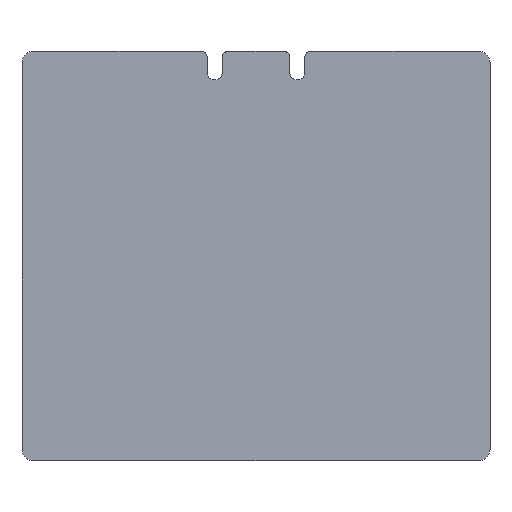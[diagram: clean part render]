
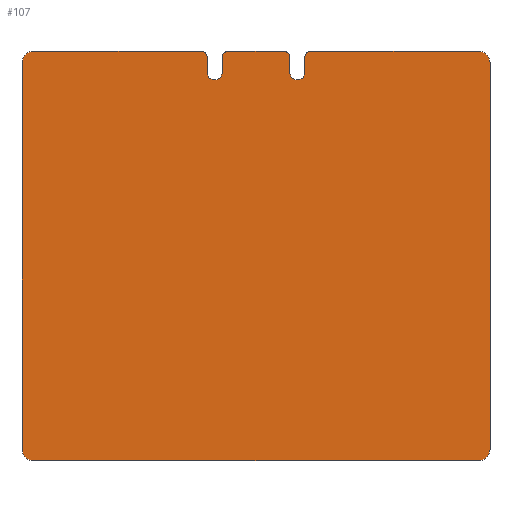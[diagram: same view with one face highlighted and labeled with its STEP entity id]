
A CAD part, top view. The second image highlights one B-rep face of the part: STEP entity #107.
In plain terms, the highlighted planar face has unit normal (0, 0, 1).
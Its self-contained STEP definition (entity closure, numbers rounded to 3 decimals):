
#107 = ADVANCED_FACE( '', ( #201 ), #202, .F. );
#201 = FACE_OUTER_BOUND( '', #281, .T. );
#202 = PLANE( '', #282 );
#281 = EDGE_LOOP( '', ( #460, #461, #462, #463, #464, #465, #466, #467, #468, #469, #470, #471, #472, #473, #474, #475, #476, #477, #478, #479 ) );
#282 = AXIS2_PLACEMENT_3D( '', #480, #481, #482 );
#460 = ORIENTED_EDGE( '', *, *, #548, .T. );
#461 = ORIENTED_EDGE( '', *, *, #561, .T. );
#462 = ORIENTED_EDGE( '', *, *, #572, .T. );
#463 = ORIENTED_EDGE( '', *, *, #554, .F. );
#464 = ORIENTED_EDGE( '', *, *, #531, .T. );
#465 = ORIENTED_EDGE( '', *, *, #511, .T. );
#466 = ORIENTED_EDGE( '', *, *, #551, .T. );
#467 = ORIENTED_EDGE( '', *, *, #541, .T. );
#468 = ORIENTED_EDGE( '', *, *, #569, .F. );
#469 = ORIENTED_EDGE( '', *, *, #506, .T. );
#470 = ORIENTED_EDGE( '', *, *, #528, .F. );
#471 = ORIENTED_EDGE( '', *, *, #565, .T. );
#472 = ORIENTED_EDGE( '', *, *, #578, .F. );
#473 = ORIENTED_EDGE( '', *, *, #521, .T. );
#474 = ORIENTED_EDGE( '', *, *, #535, .T. );
#475 = ORIENTED_EDGE( '', *, *, #501, .T. );
#476 = ORIENTED_EDGE( '', *, *, #558, .T. );
#477 = ORIENTED_EDGE( '', *, *, #537, .F. );
#478 = ORIENTED_EDGE( '', *, *, #518, .T. );
#479 = ORIENTED_EDGE( '', *, *, #579, .T. );
#480 = CARTESIAN_POINT( '', ( 0., 0., 3. ) );
#481 = DIRECTION( '', ( 0., 0., -1. ) );
#482 = DIRECTION( '', ( -1., 0., 0. ) );
#501 = EDGE_CURVE( '', #583, #584, #585, .F. );
#506 = EDGE_CURVE( '', #592, #593, #594, .F. );
#511 = EDGE_CURVE( '', #601, #602, #603, .F. );
#518 = EDGE_CURVE( '', #615, #613, #616, .T. );
#521 = EDGE_CURVE( '', #619, #620, #621, .F. );
#528 = EDGE_CURVE( '', #630, #593, #632, .T. );
#531 = EDGE_CURVE( '', #636, #601, #637, .T. );
#535 = EDGE_CURVE( '', #620, #583, #641, .T. );
#537 = EDGE_CURVE( '', #615, #643, #644, .T. );
#541 = EDGE_CURVE( '', #649, #650, #651, .F. );
#548 = EDGE_CURVE( '', #663, #661, #664, .T. );
#551 = EDGE_CURVE( '', #602, #649, #667, .T. );
#554 = EDGE_CURVE( '', #636, #670, #671, .T. );
#558 = EDGE_CURVE( '', #584, #643, #676, .T. );
#561 = EDGE_CURVE( '', #661, #679, #680, .F. );
#565 = EDGE_CURVE( '', #630, #685, #686, .F. );
#569 = EDGE_CURVE( '', #592, #650, #691, .T. );
#572 = EDGE_CURVE( '', #679, #670, #694, .T. );
#578 = EDGE_CURVE( '', #619, #685, #700, .T. );
#579 = EDGE_CURVE( '', #613, #663, #701, .F. );
#583 = VERTEX_POINT( '', #705 );
#584 = VERTEX_POINT( '', #706 );
#585 = CIRCLE( '', #707, 2.5 );
#592 = VERTEX_POINT( '', #716 );
#593 = VERTEX_POINT( '', #717 );
#594 = CIRCLE( '', #718, 5. );
#601 = VERTEX_POINT( '', #727 );
#602 = VERTEX_POINT( '', #728 );
#603 = CIRCLE( '', #729, 2.5 );
#613 = VERTEX_POINT( '', #742 );
#615 = VERTEX_POINT( '', #745 );
#616 = LINE( '', #746, #747 );
#619 = VERTEX_POINT( '', #751 );
#620 = VERTEX_POINT( '', #752 );
#621 = CIRCLE( '', #753, 5. );
#630 = VERTEX_POINT( '', #765 );
#632 = LINE( '', #768, #769 );
#636 = VERTEX_POINT( '', #774 );
#637 = LINE( '', #775, #776 );
#641 = LINE( '', #782, #783 );
#643 = VERTEX_POINT( '', #785 );
#644 = CIRCLE( '', #786, 3.2 );
#649 = VERTEX_POINT( '', #792 );
#650 = VERTEX_POINT( '', #793 );
#651 = CIRCLE( '', #794, 5. );
#661 = VERTEX_POINT( '', #807 );
#663 = VERTEX_POINT( '', #810 );
#664 = LINE( '', #811, #812 );
#667 = LINE( '', #816, #817 );
#670 = VERTEX_POINT( '', #821 );
#671 = CIRCLE( '', #822, 3.2 );
#676 = LINE( '', #828, #829 );
#679 = VERTEX_POINT( '', #833 );
#680 = CIRCLE( '', #834, 2.5 );
#685 = VERTEX_POINT( '', #840 );
#686 = CIRCLE( '', #841, 5. );
#691 = LINE( '', #847, #848 );
#694 = LINE( '', #852, #853 );
#700 = LINE( '', #861, #862 );
#701 = CIRCLE( '', #863, 2.5 );
#705 = CARTESIAN_POINT( '', ( 23.378, 100., 3. ) );
#706 = CARTESIAN_POINT( '', ( 20.878, 97.5, 3. ) );
#707 = AXIS2_PLACEMENT_3D( '', #866, #867, #868 );
#716 = CARTESIAN_POINT( '', ( -100., -70., 3. ) );
#717 = CARTESIAN_POINT( '', ( -95., -75., 3. ) );
#718 = AXIS2_PLACEMENT_3D( '', #874, #875, #876 );
#727 = CARTESIAN_POINT( '', ( -20.878, 97.5, 3. ) );
#728 = CARTESIAN_POINT( '', ( -23.378, 100., 3. ) );
#729 = AXIS2_PLACEMENT_3D( '', #882, #883, #884 );
#742 = CARTESIAN_POINT( '', ( 14.478, 97.5, 3. ) );
#745 = CARTESIAN_POINT( '', ( 14.478, 91., 3. ) );
#746 = CARTESIAN_POINT( '', ( 14.478, 0., 3. ) );
#747 = VECTOR( '', #892, 1000. );
#751 = CARTESIAN_POINT( '', ( 100., 95., 3. ) );
#752 = CARTESIAN_POINT( '', ( 95., 100., 3. ) );
#753 = AXIS2_PLACEMENT_3D( '', #894, #895, #896 );
#765 = CARTESIAN_POINT( '', ( 95., -75., 3. ) );
#768 = CARTESIAN_POINT( '', ( 100., -75., 3. ) );
#769 = VECTOR( '', #904, 1000. );
#774 = CARTESIAN_POINT( '', ( -20.878, 91., 3. ) );
#775 = CARTESIAN_POINT( '', ( -20.878, 0., 3. ) );
#776 = VECTOR( '', #906, 1000. );
#782 = CARTESIAN_POINT( '', ( 100., 100., 3. ) );
#783 = VECTOR( '', #909, 1000. );
#785 = CARTESIAN_POINT( '', ( 20.878, 91., 3. ) );
#786 = AXIS2_PLACEMENT_3D( '', #910, #911, #912 );
#792 = CARTESIAN_POINT( '', ( -95., 100., 3. ) );
#793 = CARTESIAN_POINT( '', ( -100., 95., 3. ) );
#794 = AXIS2_PLACEMENT_3D( '', #917, #918, #919 );
#807 = CARTESIAN_POINT( '', ( -11.978, 100., 3. ) );
#810 = CARTESIAN_POINT( '', ( 11.978, 100., 3. ) );
#811 = CARTESIAN_POINT( '', ( 100., 100., 3. ) );
#812 = VECTOR( '', #927, 1000. );
#816 = CARTESIAN_POINT( '', ( 100., 100., 3. ) );
#817 = VECTOR( '', #929, 1000. );
#821 = CARTESIAN_POINT( '', ( -14.478, 91., 3. ) );
#822 = AXIS2_PLACEMENT_3D( '', #931, #932, #933 );
#828 = CARTESIAN_POINT( '', ( 20.878, 0., 3. ) );
#829 = VECTOR( '', #938, 1000. );
#833 = CARTESIAN_POINT( '', ( -14.478, 97.5, 3. ) );
#834 = AXIS2_PLACEMENT_3D( '', #940, #941, #942 );
#840 = CARTESIAN_POINT( '', ( 100., -70., 3. ) );
#841 = AXIS2_PLACEMENT_3D( '', #947, #948, #949 );
#847 = CARTESIAN_POINT( '', ( -100., -75., 3. ) );
#848 = VECTOR( '', #954, 1000. );
#852 = CARTESIAN_POINT( '', ( -14.478, 0., 3. ) );
#853 = VECTOR( '', #956, 1000. );
#861 = CARTESIAN_POINT( '', ( 100., 75., 3. ) );
#862 = VECTOR( '', #962, 1000. );
#863 = AXIS2_PLACEMENT_3D( '', #963, #964, #965 );
#866 = CARTESIAN_POINT( '', ( 23.378, 97.5, 3. ) );
#867 = DIRECTION( '', ( 0., 0., -1. ) );
#868 = DIRECTION( '', ( -1., 0., 0. ) );
#874 = CARTESIAN_POINT( '', ( -95., -70., 3. ) );
#875 = DIRECTION( '', ( 0., 0., -1. ) );
#876 = DIRECTION( '', ( -1., 0., 0. ) );
#882 = CARTESIAN_POINT( '', ( -23.378, 97.5, 3. ) );
#883 = DIRECTION( '', ( 0., 0., -1. ) );
#884 = DIRECTION( '', ( -1., 0., 0. ) );
#892 = DIRECTION( '', ( 0., 1., 0. ) );
#894 = CARTESIAN_POINT( '', ( 95., 95., 3. ) );
#895 = DIRECTION( '', ( 0., 0., -1. ) );
#896 = DIRECTION( '', ( -1., 0., 0. ) );
#904 = DIRECTION( '', ( -1., 0., 0. ) );
#906 = DIRECTION( '', ( 0., 1., 0. ) );
#909 = DIRECTION( '', ( -1., 0., 0. ) );
#910 = CARTESIAN_POINT( '', ( 17.678, 91., 3. ) );
#911 = DIRECTION( '', ( 0., 0., 1. ) );
#912 = DIRECTION( '', ( 1., 0., 0. ) );
#917 = CARTESIAN_POINT( '', ( -95., 95., 3. ) );
#918 = DIRECTION( '', ( 0., 0., -1. ) );
#919 = DIRECTION( '', ( -1., 0., 0. ) );
#927 = DIRECTION( '', ( -1., 0., 0. ) );
#929 = DIRECTION( '', ( -1., 0., 0. ) );
#931 = CARTESIAN_POINT( '', ( -17.678, 91., 3. ) );
#932 = DIRECTION( '', ( 0., 0., 1. ) );
#933 = DIRECTION( '', ( 1., 0., 0. ) );
#938 = DIRECTION( '', ( 0., -1., 0. ) );
#940 = CARTESIAN_POINT( '', ( -11.978, 97.5, 3. ) );
#941 = DIRECTION( '', ( 0., 0., -1. ) );
#942 = DIRECTION( '', ( -1., 0., 0. ) );
#947 = CARTESIAN_POINT( '', ( 95., -70., 3. ) );
#948 = DIRECTION( '', ( 0., 0., -1. ) );
#949 = DIRECTION( '', ( -1., 0., 0. ) );
#954 = DIRECTION( '', ( 0., 1., 0. ) );
#956 = DIRECTION( '', ( 0., -1., 0. ) );
#962 = DIRECTION( '', ( 0., -1., 0. ) );
#963 = CARTESIAN_POINT( '', ( 11.978, 97.5, 3. ) );
#964 = DIRECTION( '', ( 0., 0., -1. ) );
#965 = DIRECTION( '', ( -1., 0., 0. ) );
